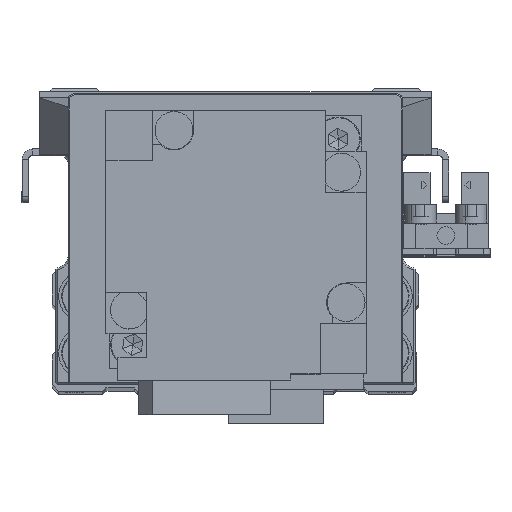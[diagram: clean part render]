
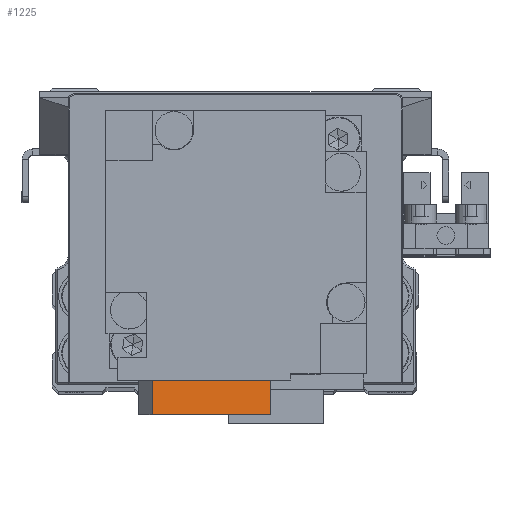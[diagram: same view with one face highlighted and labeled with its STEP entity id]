
A CAD part, top view. The second image highlights one B-rep face of the part: STEP entity #1225.
In plain terms, the highlighted planar face has unit normal (0.156, 0, 0.988) as drawn and (-0.156, 0, -0.988) by its records, which use the part's own axes.
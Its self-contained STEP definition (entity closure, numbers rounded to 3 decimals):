
#963 = FACE_OUTER_BOUND ( 'NONE', #37046, .T. ) ;
#1225 = ADVANCED_FACE ( 'NONE', ( #963 ), #12732, .F. ) ;
#2156 = VERTEX_POINT ( 'NONE', #25336 ) ;
#2852 = DIRECTION ( 'NONE',  ( 0.988, 0., -0.156 ) ) ;
#3983 = VERTEX_POINT ( 'NONE', #26235 ) ;
#8099 = EDGE_CURVE ( 'NONE', #35343, #2156, #25373, .T. ) ;
#8416 = CARTESIAN_POINT ( 'NONE',  ( -5.583, -22., -76.124 ) ) ;
#9647 = CARTESIAN_POINT ( 'NONE',  ( 13.183, -22., -79.096 ) ) ;
#9704 = LINE ( 'NONE', #21469, #35996 ) ;
#9843 = DIRECTION ( 'NONE',  ( 0.988, 0., -0.156 ) ) ;
#10061 = ORIENTED_EDGE ( 'NONE', *, *, #35159, .T. ) ;
#10728 = DIRECTION ( 'NONE',  ( 0., -1., 0. ) ) ;
#10738 = CARTESIAN_POINT ( 'NONE',  ( 3.8, -27.5, -77.61 ) ) ;
#12732 = PLANE ( 'NONE',  #33383 ) ;
#16726 = VECTOR ( 'NONE', #22477, 1000. ) ;
#17544 = LINE ( 'NONE', #29298, #29870 ) ;
#21364 = ORIENTED_EDGE ( 'NONE', *, *, #34389, .F. ) ;
#21469 = CARTESIAN_POINT ( 'NONE',  ( 13.183, -24.75, -79.096 ) ) ;
#22298 = ORIENTED_EDGE ( 'NONE', *, *, #8099, .F. ) ;
#22477 = DIRECTION ( 'NONE',  ( 0.988, 0., -0.156 ) ) ;
#24297 = EDGE_CURVE ( 'NONE', #2156, #3983, #37163, .T. ) ;
#24484 = CARTESIAN_POINT ( 'NONE',  ( 3.8, -24.75, -77.61 ) ) ;
#25148 = VECTOR ( 'NONE', #10728, 1000. ) ;
#25336 = CARTESIAN_POINT ( 'NONE',  ( -5.583, -27.5, -76.124 ) ) ;
#25373 = LINE ( 'NONE', #37152, #25148 ) ;
#26037 = ORIENTED_EDGE ( 'NONE', *, *, #24297, .F. ) ;
#26235 = CARTESIAN_POINT ( 'NONE',  ( 13.183, -27.5, -79.096 ) ) ;
#29298 = CARTESIAN_POINT ( 'NONE',  ( -5.583, -22., -76.124 ) ) ;
#29870 = VECTOR ( 'NONE', #2852, 1000. ) ;
#30158 = VERTEX_POINT ( 'NONE', #9647 ) ;
#33248 = DIRECTION ( 'NONE',  ( 0., 1., 0. ) ) ;
#33383 = AXIS2_PLACEMENT_3D ( 'NONE', #24484, #36264, #9843 ) ;
#34389 = EDGE_CURVE ( 'NONE', #3983, #30158, #9704, .T. ) ;
#35159 = EDGE_CURVE ( 'NONE', #35343, #30158, #17544, .T. ) ;
#35343 = VERTEX_POINT ( 'NONE', #8416 ) ;
#35996 = VECTOR ( 'NONE', #33248, 1000. ) ;
#36264 = DIRECTION ( 'NONE',  ( 0.156, 0., 0.988 ) ) ;
#37046 = EDGE_LOOP ( 'NONE', ( #21364, #26037, #22298, #10061 ) ) ;
#37152 = CARTESIAN_POINT ( 'NONE',  ( -5.583, -24.75, -76.124 ) ) ;
#37163 = LINE ( 'NONE', #10738, #16726 ) ;
